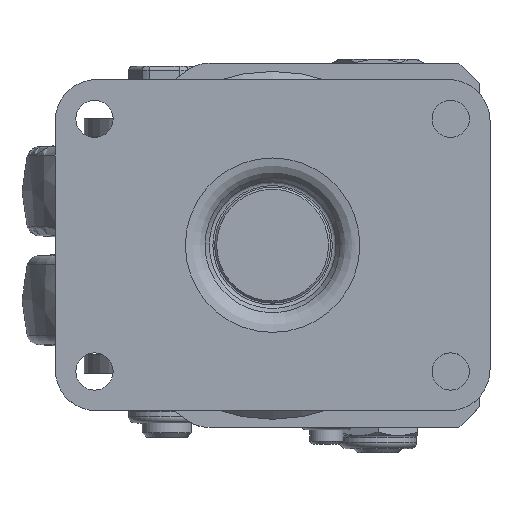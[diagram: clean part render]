
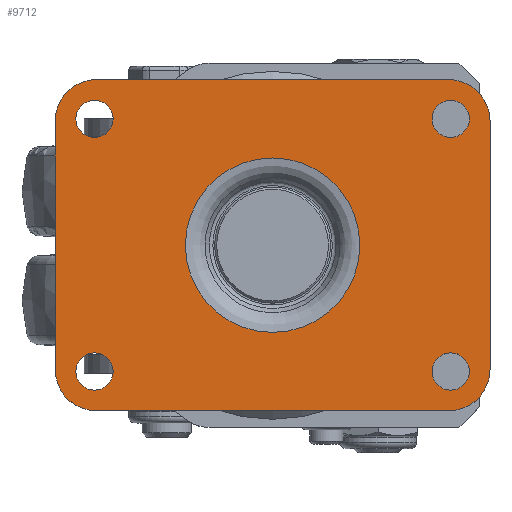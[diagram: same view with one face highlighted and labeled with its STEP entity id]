
A CAD part, top view. The second image highlights one B-rep face of the part: STEP entity #9712.
In plain terms, the highlighted planar face has unit normal (0, 0, 1).
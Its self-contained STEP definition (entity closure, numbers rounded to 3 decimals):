
#624=FACE_BOUND('',#2379,.T.);
#625=FACE_BOUND('',#2380,.T.);
#626=FACE_BOUND('',#2381,.T.);
#627=FACE_BOUND('',#2382,.T.);
#628=FACE_BOUND('',#2383,.T.);
#1025=CIRCLE('',#10659,10.);
#1035=CIRCLE('',#10672,10.);
#1036=CIRCLE('',#10675,10.);
#1037=CIRCLE('',#10676,10.);
#1038=CIRCLE('',#10677,21.062);
#1039=CIRCLE('',#10678,4.5);
#1040=CIRCLE('',#10679,4.5);
#1041=CIRCLE('',#10680,4.5);
#1042=CIRCLE('',#10681,4.5);
#1716=FACE_OUTER_BOUND('',#2378,.T.);
#2378=EDGE_LOOP('',(#7349,#7350,#7351,#7352,#7353,#7354,#7355,#7356));
#2379=EDGE_LOOP('',(#7357));
#2380=EDGE_LOOP('',(#7358));
#2381=EDGE_LOOP('',(#7359));
#2382=EDGE_LOOP('',(#7360));
#2383=EDGE_LOOP('',(#7361));
#3104=LINE('',#17519,#3572);
#3110=LINE('',#17550,#3578);
#3112=LINE('',#17556,#3580);
#3113=LINE('',#17558,#3581);
#3572=VECTOR('',#12910,10.);
#3578=VECTOR('',#12940,10.);
#3580=VECTOR('',#12946,10.);
#3581=VECTOR('',#12949,10.);
#4208=VERTEX_POINT('',#17506);
#4209=VERTEX_POINT('',#17507);
#4213=VERTEX_POINT('',#17517);
#4224=VERTEX_POINT('',#17543);
#4225=VERTEX_POINT('',#17544);
#4226=VERTEX_POINT('',#17549);
#4227=VERTEX_POINT('',#17553);
#4228=VERTEX_POINT('',#17555);
#4229=VERTEX_POINT('',#17559);
#4230=VERTEX_POINT('',#17561);
#4231=VERTEX_POINT('',#17563);
#4232=VERTEX_POINT('',#17565);
#4233=VERTEX_POINT('',#17567);
#5301=EDGE_CURVE('',#4208,#4209,#1025,.T.);
#5307=EDGE_CURVE('',#4208,#4213,#3104,.T.);
#5319=EDGE_CURVE('',#4224,#4225,#1035,.T.);
#5322=EDGE_CURVE('',#4226,#4225,#3110,.T.);
#5324=EDGE_CURVE('',#4227,#4213,#1036,.T.);
#5325=EDGE_CURVE('',#4227,#4228,#3112,.T.);
#5326=EDGE_CURVE('',#4226,#4228,#1037,.T.);
#5327=EDGE_CURVE('',#4224,#4209,#3113,.T.);
#5328=EDGE_CURVE('',#4229,#4229,#1038,.T.);
#5329=EDGE_CURVE('',#4230,#4230,#1039,.T.);
#5330=EDGE_CURVE('',#4231,#4231,#1040,.T.);
#5331=EDGE_CURVE('',#4232,#4232,#1041,.T.);
#5332=EDGE_CURVE('',#4233,#4233,#1042,.T.);
#7349=ORIENTED_EDGE('',*,*,#5301,.F.);
#7350=ORIENTED_EDGE('',*,*,#5307,.T.);
#7351=ORIENTED_EDGE('',*,*,#5324,.F.);
#7352=ORIENTED_EDGE('',*,*,#5325,.T.);
#7353=ORIENTED_EDGE('',*,*,#5326,.F.);
#7354=ORIENTED_EDGE('',*,*,#5322,.T.);
#7355=ORIENTED_EDGE('',*,*,#5319,.F.);
#7356=ORIENTED_EDGE('',*,*,#5327,.T.);
#7357=ORIENTED_EDGE('',*,*,#5328,.F.);
#7358=ORIENTED_EDGE('',*,*,#5329,.T.);
#7359=ORIENTED_EDGE('',*,*,#5330,.T.);
#7360=ORIENTED_EDGE('',*,*,#5331,.T.);
#7361=ORIENTED_EDGE('',*,*,#5332,.T.);
#8691=PLANE('',#10674);
#9712=ADVANCED_FACE('',(#1716,#624,#625,#626,#627,#628),#8691,.T.);
#10659=AXIS2_PLACEMENT_3D('',#17508,#12900,#12901);
#10672=AXIS2_PLACEMENT_3D('',#17545,#12934,#12935);
#10674=AXIS2_PLACEMENT_3D('',#17552,#12942,#12943);
#10675=AXIS2_PLACEMENT_3D('',#17554,#12944,#12945);
#10676=AXIS2_PLACEMENT_3D('',#17557,#12947,#12948);
#10677=AXIS2_PLACEMENT_3D('',#17560,#12950,#12951);
#10678=AXIS2_PLACEMENT_3D('',#17562,#12952,#12953);
#10679=AXIS2_PLACEMENT_3D('',#17564,#12954,#12955);
#10680=AXIS2_PLACEMENT_3D('',#17566,#12956,#12957);
#10681=AXIS2_PLACEMENT_3D('',#17568,#12958,#12959);
#12900=DIRECTION('center_axis',(0.,0.,-1.));
#12901=DIRECTION('ref_axis',(0.707,-0.707,0.));
#12910=DIRECTION('',(0.,1.,0.));
#12934=DIRECTION('center_axis',(0.,0.,-1.));
#12935=DIRECTION('ref_axis',(-0.707,-0.707,0.));
#12940=DIRECTION('',(0.,-1.,0.));
#12942=DIRECTION('center_axis',(0.,0.,1.));
#12943=DIRECTION('ref_axis',(1.,0.,0.));
#12944=DIRECTION('center_axis',(0.,0.,-1.));
#12945=DIRECTION('ref_axis',(0.707,0.707,0.));
#12946=DIRECTION('',(-1.,0.,0.));
#12947=DIRECTION('center_axis',(0.,0.,-1.));
#12948=DIRECTION('ref_axis',(-0.707,0.707,0.));
#12949=DIRECTION('',(1.,0.,0.));
#12950=DIRECTION('center_axis',(0.,0.,1.));
#12951=DIRECTION('ref_axis',(1.,0.,0.));
#12952=DIRECTION('center_axis',(0.,0.,-1.));
#12953=DIRECTION('ref_axis',(1.,0.,0.));
#12954=DIRECTION('center_axis',(0.,0.,-1.));
#12955=DIRECTION('ref_axis',(1.,0.,0.));
#12956=DIRECTION('center_axis',(0.,0.,-1.));
#12957=DIRECTION('ref_axis',(1.,0.,0.));
#12958=DIRECTION('center_axis',(0.,0.,-1.));
#12959=DIRECTION('ref_axis',(1.,0.,0.));
#17506=CARTESIAN_POINT('',(52.5,-30.,0.));
#17507=CARTESIAN_POINT('',(42.5,-40.,0.));
#17508=CARTESIAN_POINT('Origin',(42.5,-30.,0.));
#17517=CARTESIAN_POINT('',(52.5,30.,0.));
#17519=CARTESIAN_POINT('',(52.5,-40.,0.));
#17543=CARTESIAN_POINT('',(-42.5,-40.,0.));
#17544=CARTESIAN_POINT('',(-52.5,-30.,0.));
#17545=CARTESIAN_POINT('Origin',(-42.5,-30.,0.));
#17549=CARTESIAN_POINT('',(-52.5,30.,0.));
#17550=CARTESIAN_POINT('',(-52.5,40.,0.));
#17552=CARTESIAN_POINT('Origin',(0.,0.,0.));
#17553=CARTESIAN_POINT('',(42.5,40.,0.));
#17554=CARTESIAN_POINT('Origin',(42.5,30.,0.));
#17555=CARTESIAN_POINT('',(-42.5,40.,0.));
#17556=CARTESIAN_POINT('',(52.5,40.,0.));
#17557=CARTESIAN_POINT('Origin',(-42.5,30.,0.));
#17558=CARTESIAN_POINT('',(-52.5,-40.,0.));
#17559=CARTESIAN_POINT('',(21.062,0.,0.));
#17560=CARTESIAN_POINT('Origin',(0.,0.,0.));
#17561=CARTESIAN_POINT('',(-47.5,-30.5,0.));
#17562=CARTESIAN_POINT('Origin',(-43.,-30.5,0.));
#17563=CARTESIAN_POINT('',(38.5,30.5,0.));
#17564=CARTESIAN_POINT('Origin',(43.,30.5,0.));
#17565=CARTESIAN_POINT('',(-47.5,30.5,0.));
#17566=CARTESIAN_POINT('Origin',(-43.,30.5,0.));
#17567=CARTESIAN_POINT('',(38.5,-30.5,0.));
#17568=CARTESIAN_POINT('Origin',(43.,-30.5,0.));
